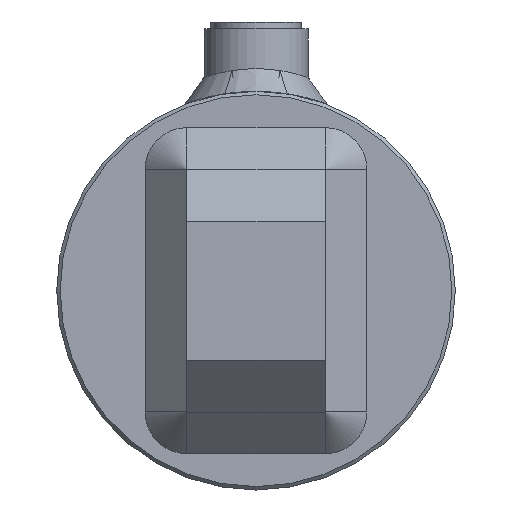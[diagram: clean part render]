
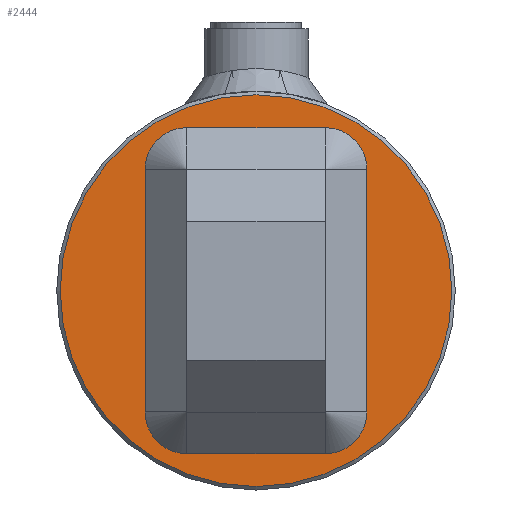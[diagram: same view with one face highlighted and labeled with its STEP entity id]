
A CAD part, left-side view. The second image highlights one B-rep face of the part: STEP entity #2444.
In plain terms, the highlighted planar face has unit normal (-1, 0, 0).
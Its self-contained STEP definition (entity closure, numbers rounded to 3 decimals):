
#2444 = ADVANCED_FACE( '', ( #5872 ), #5873, .T. );
#5872 = FACE_OUTER_BOUND( '', #7461, .T. );
#5873 = PLANE( '', #7462 );
#7461 = EDGE_LOOP( '', ( #8131 ) );
#7462 = AXIS2_PLACEMENT_3D( '', #8132, #8133, #8134 );
#8131 = ORIENTED_EDGE( '', *, *, #9164, .T. );
#8132 = CARTESIAN_POINT( '', ( -15., 0., 0. ) );
#8133 = DIRECTION( '', ( -1., 0., 0. ) );
#8134 = DIRECTION( '', ( 0., -1., 0. ) );
#9164 = EDGE_CURVE( '', #11178, #11178, #11179, .T. );
#11178 = VERTEX_POINT( '', #11886 );
#11179 = CIRCLE( '', #11887, 56.5 );
#11886 = CARTESIAN_POINT( '', ( -15., -56.5, 0. ) );
#11887 = AXIS2_PLACEMENT_3D( '', #12034, #12035, #12036 );
#12034 = CARTESIAN_POINT( '', ( -15., 0., 0. ) );
#12035 = DIRECTION( '', ( -1., 0., 0. ) );
#12036 = DIRECTION( '', ( 0., -1., 0. ) );
